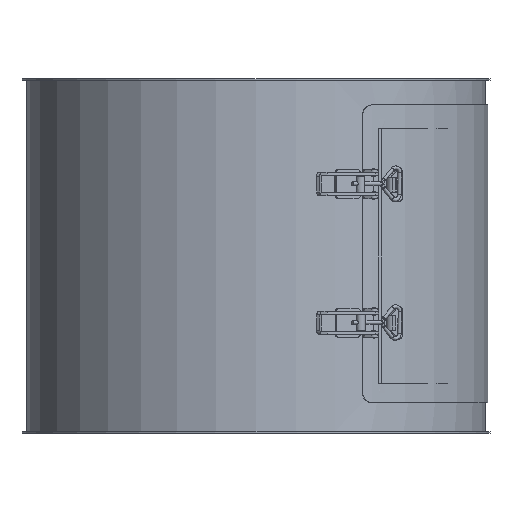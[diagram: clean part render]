
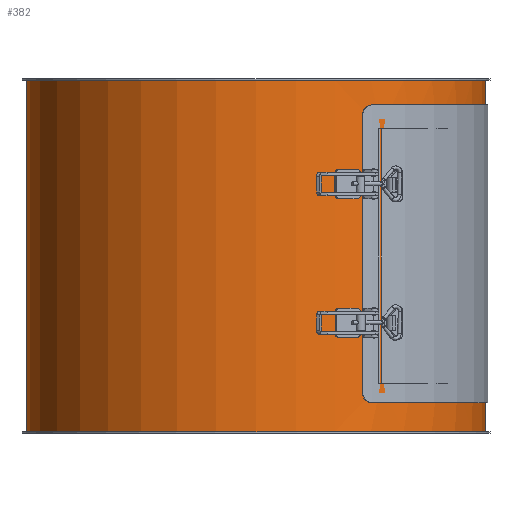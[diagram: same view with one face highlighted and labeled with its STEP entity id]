
A CAD part, left-side view. The second image highlights one B-rep face of the part: STEP entity #382.
In plain terms, the highlighted cylindrical face has radius 316 mm (diameter 632 mm), a full revolution.
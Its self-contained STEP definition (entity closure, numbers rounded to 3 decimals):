
#123=CARTESIAN_POINT('',(-265.0,-172.137,69.));
#124=VERTEX_POINT('',#123);
#131=CARTESIAN_POINT('',(265.0,-172.137,69.));
#132=VERTEX_POINT('',#131);
#133=CARTESIAN_POINT('',(0.0,0.0,69.));
#134=DIRECTION('',(0.0,0.0,-1.0));
#135=DIRECTION('',(-1.0,0.0,0.0));
#136=AXIS2_PLACEMENT_3D('',#133,#134,#135);
#137=CIRCLE('',#136,316.0);
#138=EDGE_CURVE('',#132,#124,#137,.T.);
#163=CARTESIAN_POINT('',(265.,-172.137,419.));
#164=VERTEX_POINT('',#163);
#165=CARTESIAN_POINT('',(265.0,-172.137,419.));
#166=DIRECTION('',(0.0,0.0,-1.0));
#167=VECTOR('',#166,350.);
#168=LINE('',#165,#167);
#169=EDGE_CURVE('',#164,#132,#168,.T.);
#195=CARTESIAN_POINT('',(-265.,-172.137,419.));
#196=VERTEX_POINT('',#195);
#197=CARTESIAN_POINT('',(0.0,0.0,419.));
#198=DIRECTION('',(0.0,0.0,1.0));
#199=DIRECTION('',(-1.0,0.0,0.0));
#200=AXIS2_PLACEMENT_3D('',#197,#198,#199);
#201=CIRCLE('',#200,316.0);
#202=EDGE_CURVE('',#196,#164,#201,.T.);
#225=CARTESIAN_POINT('',(-265.0,-172.137,69.));
#226=DIRECTION('',(0.0,0.0,1.0));
#227=VECTOR('',#226,350.);
#228=LINE('',#225,#227);
#229=EDGE_CURVE('',#124,#196,#228,.T.);
#271=CARTESIAN_POINT('',(-316.0,0.,2.0));
#272=VERTEX_POINT('',#271);
#273=CARTESIAN_POINT('',(0.0,0.0,2.0));
#274=DIRECTION('',(0.0,0.0,1.0));
#275=DIRECTION('',(-1.0,0.0,0.0));
#276=AXIS2_PLACEMENT_3D('',#273,#274,#275);
#277=CIRCLE('',#276,316.0);
#278=EDGE_CURVE('',#272,#272,#277,.T.);
#319=CARTESIAN_POINT('',(316.0,0.,486.0));
#320=VERTEX_POINT('',#319);
#321=CARTESIAN_POINT('',(0.0,0.0,486.0));
#322=DIRECTION('',(0.0,0.0,-1.0));
#323=DIRECTION('',(-1.0,0.0,0.0));
#324=AXIS2_PLACEMENT_3D('',#321,#322,#323);
#325=CIRCLE('',#324,316.0);
#326=EDGE_CURVE('',#320,#320,#325,.T.);
#365=CARTESIAN_POINT('',(0.0,0.0,0.0));
#366=DIRECTION('',(0.0,0.0,1.0));
#367=DIRECTION('',(-1.0,0.0,0.0));
#368=AXIS2_PLACEMENT_3D('',#365,#366,#367);
#369=CYLINDRICAL_SURFACE('',#368,316.0);
#370=ORIENTED_EDGE('',*,*,#278,.T.);
#371=EDGE_LOOP('',(#370));
#372=FACE_OUTER_BOUND('',#371,.T.);
#373=ORIENTED_EDGE('',*,*,#202,.T.);
#374=ORIENTED_EDGE('',*,*,#169,.T.);
#375=ORIENTED_EDGE('',*,*,#138,.T.);
#376=ORIENTED_EDGE('',*,*,#229,.T.);
#377=EDGE_LOOP('',(#373,#374,#375,#376));
#378=FACE_BOUND('',#377,.T.);
#379=ORIENTED_EDGE('',*,*,#326,.T.);
#380=EDGE_LOOP('',(#379));
#381=FACE_BOUND('',#380,.T.);
#382=ADVANCED_FACE('',(#372,#378,#381),#369,.T.);
